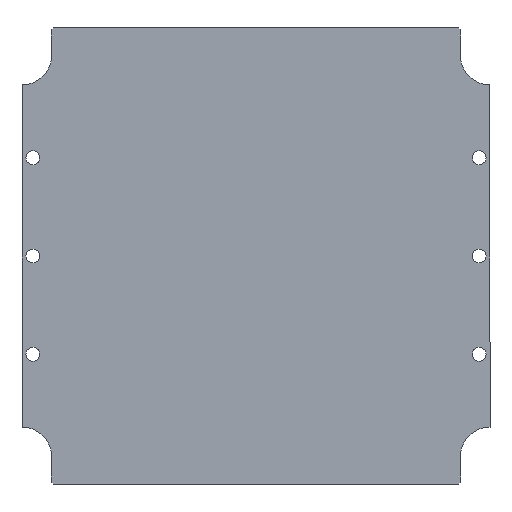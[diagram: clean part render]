
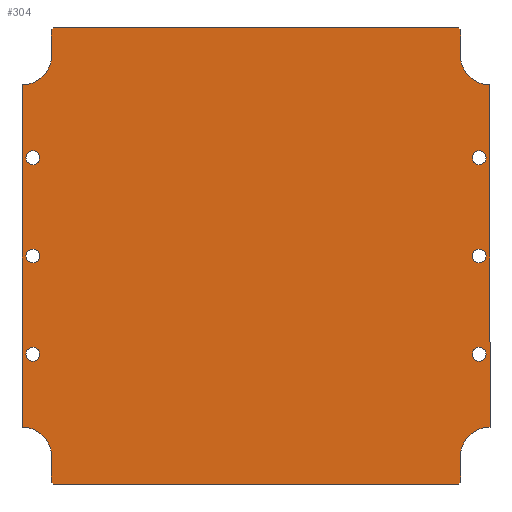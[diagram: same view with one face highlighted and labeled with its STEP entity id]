
A CAD part, top view. The second image highlights one B-rep face of the part: STEP entity #304.
In plain terms, the highlighted planar face has unit normal (0, 0, 1).
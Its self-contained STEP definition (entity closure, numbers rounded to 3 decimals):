
#59=CARTESIAN_POINT('',(104.,-115.,0.0));
#60=VERTEX_POINT('',#59);
#67=CARTESIAN_POINT('',(103.,-116.,0.0));
#68=VERTEX_POINT('',#67);
#69=CARTESIAN_POINT('',(104.,-115.,0.0));
#70=DIRECTION('',(-0.707,-0.707,0.0));
#71=VECTOR('',#70,1.414);
#72=LINE('',#69,#71);
#73=EDGE_CURVE('',#60,#68,#72,.T.);
#90=CARTESIAN_POINT('',(-103.,-116.,0.0));
#91=VERTEX_POINT('',#90);
#92=CARTESIAN_POINT('',(103.,-116.,0.0));
#93=DIRECTION('',(-1.0,0.0,0.0));
#94=VECTOR('',#93,206.);
#95=LINE('',#92,#94);
#96=EDGE_CURVE('',#68,#91,#95,.T.);
#115=CARTESIAN_POINT('',(0.,0.,0.0));
#116=DIRECTION('',(0.0,0.0,1.0));
#117=DIRECTION('',(1.0,0.0,0.0));
#118=AXIS2_PLACEMENT_3D('',#115,#116,#117);
#119=PLANE('',#118);
#120=ORIENTED_EDGE('',*,*,#73,.F.);
#121=CARTESIAN_POINT('',(104.,-102.,0.0));
#122=VERTEX_POINT('',#121);
#123=CARTESIAN_POINT('',(104.,-102.,0.0));
#124=DIRECTION('',(0.0,-1.0,0.0));
#125=VECTOR('',#124,13.);
#126=LINE('',#123,#125);
#127=EDGE_CURVE('',#122,#60,#126,.T.);
#128=ORIENTED_EDGE('',*,*,#127,.F.);
#129=CARTESIAN_POINT('',(119.,-87.,0.0));
#130=VERTEX_POINT('',#129);
#131=CARTESIAN_POINT('',(119.,-102.,0.0));
#132=DIRECTION('',(0.0,0.0,1.0));
#133=DIRECTION('',(0.0,1.0,0.0));
#134=AXIS2_PLACEMENT_3D('',#131,#132,#133);
#135=CIRCLE('',#134,15.);
#136=EDGE_CURVE('',#130,#122,#135,.T.);
#137=ORIENTED_EDGE('',*,*,#136,.F.);
#138=CARTESIAN_POINT('',(119.,87.,0.0));
#139=VERTEX_POINT('',#138);
#140=CARTESIAN_POINT('',(119.,87.,0.0));
#141=DIRECTION('',(0.0,-1.0,0.0));
#142=VECTOR('',#141,174.0);
#143=LINE('',#140,#142);
#144=EDGE_CURVE('',#139,#130,#143,.T.);
#145=ORIENTED_EDGE('',*,*,#144,.F.);
#146=CARTESIAN_POINT('',(104.,102.,0.0));
#147=VERTEX_POINT('',#146);
#148=CARTESIAN_POINT('',(119.,102.,0.0));
#149=DIRECTION('',(0.0,0.0,1.0));
#150=DIRECTION('',(-1.0,0.0,0.0));
#151=AXIS2_PLACEMENT_3D('',#148,#149,#150);
#152=CIRCLE('',#151,15.);
#153=EDGE_CURVE('',#147,#139,#152,.T.);
#154=ORIENTED_EDGE('',*,*,#153,.F.);
#155=CARTESIAN_POINT('',(104.,115.,0.0));
#156=VERTEX_POINT('',#155);
#157=CARTESIAN_POINT('',(104.,115.,0.0));
#158=DIRECTION('',(0.0,-1.0,0.0));
#159=VECTOR('',#158,13.0);
#160=LINE('',#157,#159);
#161=EDGE_CURVE('',#156,#147,#160,.T.);
#162=ORIENTED_EDGE('',*,*,#161,.F.);
#163=CARTESIAN_POINT('',(103.,116.,0.0));
#164=VERTEX_POINT('',#163);
#165=CARTESIAN_POINT('',(103.,116.,0.0));
#166=DIRECTION('',(0.707,-0.707,0.0));
#167=VECTOR('',#166,1.414);
#168=LINE('',#165,#167);
#169=EDGE_CURVE('',#164,#156,#168,.T.);
#170=ORIENTED_EDGE('',*,*,#169,.F.);
#171=CARTESIAN_POINT('',(-103.,116.,0.0));
#172=VERTEX_POINT('',#171);
#173=CARTESIAN_POINT('',(-103.,116.,0.0));
#174=DIRECTION('',(1.0,0.0,0.0));
#175=VECTOR('',#174,206.0);
#176=LINE('',#173,#175);
#177=EDGE_CURVE('',#172,#164,#176,.T.);
#178=ORIENTED_EDGE('',*,*,#177,.F.);
#179=CARTESIAN_POINT('',(-104.,115.,0.0));
#180=VERTEX_POINT('',#179);
#181=CARTESIAN_POINT('',(-104.,115.,0.0));
#182=DIRECTION('',(0.707,0.707,0.0));
#183=VECTOR('',#182,1.414);
#184=LINE('',#181,#183);
#185=EDGE_CURVE('',#180,#172,#184,.T.);
#186=ORIENTED_EDGE('',*,*,#185,.F.);
#187=CARTESIAN_POINT('',(-104.,102.,0.0));
#188=VERTEX_POINT('',#187);
#189=CARTESIAN_POINT('',(-104.,102.,0.0));
#190=DIRECTION('',(0.0,1.0,0.0));
#191=VECTOR('',#190,13.0);
#192=LINE('',#189,#191);
#193=EDGE_CURVE('',#188,#180,#192,.T.);
#194=ORIENTED_EDGE('',*,*,#193,.F.);
#195=CARTESIAN_POINT('',(-119.,87.,0.0));
#196=VERTEX_POINT('',#195);
#197=CARTESIAN_POINT('',(-119.,102.,0.0));
#198=DIRECTION('',(0.0,0.0,1.0));
#199=DIRECTION('',(0.0,-1.0,0.0));
#200=AXIS2_PLACEMENT_3D('',#197,#198,#199);
#201=CIRCLE('',#200,15.);
#202=EDGE_CURVE('',#196,#188,#201,.T.);
#203=ORIENTED_EDGE('',*,*,#202,.F.);
#204=CARTESIAN_POINT('',(-119.,-87.,0.0));
#205=VERTEX_POINT('',#204);
#206=CARTESIAN_POINT('',(-119.,-87.,0.0));
#207=DIRECTION('',(0.0,1.0,0.0));
#208=VECTOR('',#207,174.0);
#209=LINE('',#206,#208);
#210=EDGE_CURVE('',#205,#196,#209,.T.);
#211=ORIENTED_EDGE('',*,*,#210,.F.);
#212=CARTESIAN_POINT('',(-104.,-102.,0.0));
#213=VERTEX_POINT('',#212);
#214=CARTESIAN_POINT('',(-119.,-102.,0.0));
#215=DIRECTION('',(0.0,0.0,1.0));
#216=DIRECTION('',(1.0,0.0,0.0));
#217=AXIS2_PLACEMENT_3D('',#214,#215,#216);
#218=CIRCLE('',#217,15.);
#219=EDGE_CURVE('',#213,#205,#218,.T.);
#220=ORIENTED_EDGE('',*,*,#219,.F.);
#221=CARTESIAN_POINT('',(-104.,-115.,0.0));
#222=VERTEX_POINT('',#221);
#223=CARTESIAN_POINT('',(-104.,-115.,0.0));
#224=DIRECTION('',(0.0,1.0,0.0));
#225=VECTOR('',#224,13.0);
#226=LINE('',#223,#225);
#227=EDGE_CURVE('',#222,#213,#226,.T.);
#228=ORIENTED_EDGE('',*,*,#227,.F.);
#229=CARTESIAN_POINT('',(-103.,-116.,0.0));
#230=DIRECTION('',(-0.707,0.707,0.0));
#231=VECTOR('',#230,1.414);
#232=LINE('',#229,#231);
#233=EDGE_CURVE('',#91,#222,#232,.T.);
#234=ORIENTED_EDGE('',*,*,#233,.F.);
#235=ORIENTED_EDGE('',*,*,#96,.F.);
#236=EDGE_LOOP('',(#120,#128,#137,#145,#154,#162,#170,#178,#186,#194,#203,#211,#220,#228,#234,#235));
#237=FACE_OUTER_BOUND('',#236,.T.);
#238=CARTESIAN_POINT('',(117.,50.,0.0));
#239=VERTEX_POINT('',#238);
#240=CARTESIAN_POINT('',(113.5,50.,0.0));
#241=DIRECTION('',(0.0,0.0,-1.0));
#242=DIRECTION('',(1.0,0.0,0.0));
#243=AXIS2_PLACEMENT_3D('',#240,#241,#242);
#244=CIRCLE('',#243,3.5);
#245=EDGE_CURVE('',#239,#239,#244,.T.);
#246=ORIENTED_EDGE('',*,*,#245,.T.);
#247=EDGE_LOOP('',(#246));
#248=FACE_BOUND('',#247,.T.);
#249=CARTESIAN_POINT('',(117.,0.,0.0));
#250=VERTEX_POINT('',#249);
#251=CARTESIAN_POINT('',(113.5,0.,0.0));
#252=DIRECTION('',(0.0,0.0,-1.0));
#253=DIRECTION('',(1.0,0.0,0.0));
#254=AXIS2_PLACEMENT_3D('',#251,#252,#253);
#255=CIRCLE('',#254,3.5);
#256=EDGE_CURVE('',#250,#250,#255,.T.);
#257=ORIENTED_EDGE('',*,*,#256,.T.);
#258=EDGE_LOOP('',(#257));
#259=FACE_BOUND('',#258,.T.);
#260=CARTESIAN_POINT('',(117.,-50.,0.0));
#261=VERTEX_POINT('',#260);
#262=CARTESIAN_POINT('',(113.5,-50.,0.0));
#263=DIRECTION('',(0.0,0.0,-1.0));
#264=DIRECTION('',(1.0,0.0,0.0));
#265=AXIS2_PLACEMENT_3D('',#262,#263,#264);
#266=CIRCLE('',#265,3.5);
#267=EDGE_CURVE('',#261,#261,#266,.T.);
#268=ORIENTED_EDGE('',*,*,#267,.T.);
#269=EDGE_LOOP('',(#268));
#270=FACE_BOUND('',#269,.T.);
#271=CARTESIAN_POINT('',(-110.,-50.,0.0));
#272=VERTEX_POINT('',#271);
#273=CARTESIAN_POINT('',(-113.5,-50.,0.0));
#274=DIRECTION('',(0.0,0.0,-1.0));
#275=DIRECTION('',(1.0,0.0,0.0));
#276=AXIS2_PLACEMENT_3D('',#273,#274,#275);
#277=CIRCLE('',#276,3.5);
#278=EDGE_CURVE('',#272,#272,#277,.T.);
#279=ORIENTED_EDGE('',*,*,#278,.T.);
#280=EDGE_LOOP('',(#279));
#281=FACE_BOUND('',#280,.T.);
#282=CARTESIAN_POINT('',(-110.,0.,0.0));
#283=VERTEX_POINT('',#282);
#284=CARTESIAN_POINT('',(-113.5,0.,0.0));
#285=DIRECTION('',(0.0,0.0,-1.0));
#286=DIRECTION('',(1.0,0.0,0.0));
#287=AXIS2_PLACEMENT_3D('',#284,#285,#286);
#288=CIRCLE('',#287,3.5);
#289=EDGE_CURVE('',#283,#283,#288,.T.);
#290=ORIENTED_EDGE('',*,*,#289,.T.);
#291=EDGE_LOOP('',(#290));
#292=FACE_BOUND('',#291,.T.);
#293=CARTESIAN_POINT('',(-110.,50.,0.0));
#294=VERTEX_POINT('',#293);
#295=CARTESIAN_POINT('',(-113.5,50.,0.0));
#296=DIRECTION('',(0.0,0.0,-1.0));
#297=DIRECTION('',(1.0,0.0,0.0));
#298=AXIS2_PLACEMENT_3D('',#295,#296,#297);
#299=CIRCLE('',#298,3.5);
#300=EDGE_CURVE('',#294,#294,#299,.T.);
#301=ORIENTED_EDGE('',*,*,#300,.T.);
#302=EDGE_LOOP('',(#301));
#303=FACE_BOUND('',#302,.T.);
#304=ADVANCED_FACE('',(#237,#248,#259,#270,#281,#292,#303),#119,.T.);
